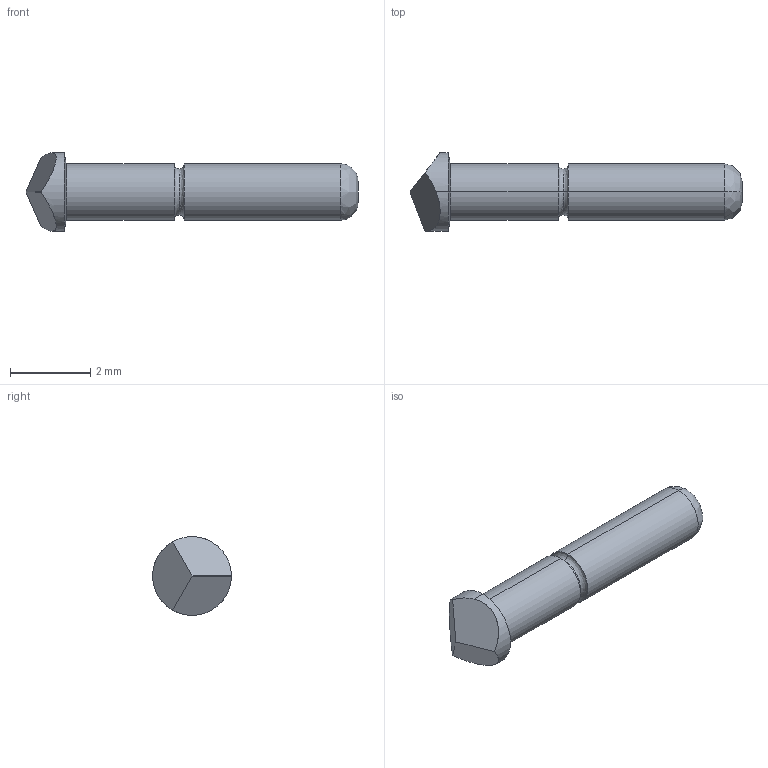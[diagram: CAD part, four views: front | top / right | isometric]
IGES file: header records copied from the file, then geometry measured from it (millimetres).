
Start section: SolidWorks IGES file using analytic representation for surfaces
Global section: file name: Z:\probe solid model mockups\Solidworks models\IGES Files\HPA-64\HPA-64-1 Full.IGS; native system: SolidWorks 2006 by SolidWorks Corporation; preprocessor: SolidWorks 2006 by SolidWorks Corporation; author: tsakatani; date: 071220.095943; units: inch
Bounding box: 8.26 x 1.96 x 1.96 mm (x, y, z)
Surface area: 41 mm2 (no closed solid volume)
Topology: 0 solids, 0 shells, 19 faces, 154 edges, 154 vertices
Faces by surface type: bspline 11, revolution 8
